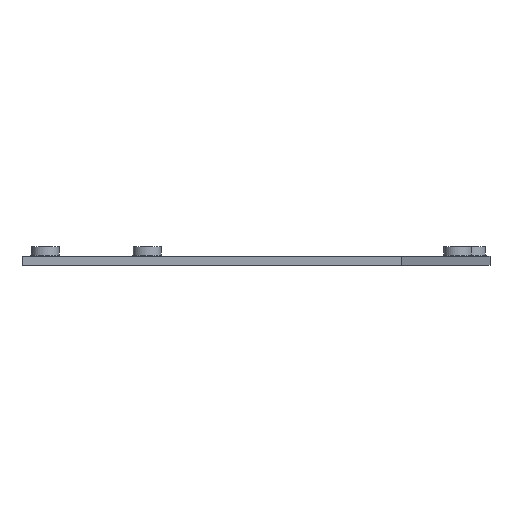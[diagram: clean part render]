
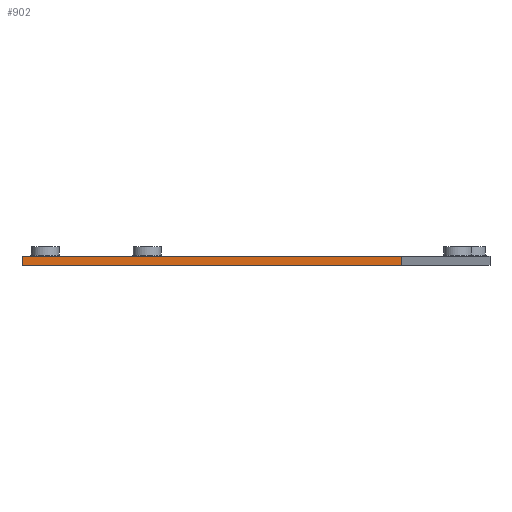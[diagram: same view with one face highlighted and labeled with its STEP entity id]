
A CAD part, left-side view. The second image highlights one B-rep face of the part: STEP entity #902.
In plain terms, the highlighted planar face has unit normal (-1, 0, 0).
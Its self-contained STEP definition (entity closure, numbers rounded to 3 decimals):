
#44 = PLANE('',#45);
#45 = AXIS2_PLACEMENT_3D('',#46,#47,#48);
#46 = CARTESIAN_POINT('',(0.,19.,0.));
#47 = DIRECTION('',(0.362,0.932,-0.));
#48 = DIRECTION('',(0.932,-0.362,0.));
#72 = PLANE('',#73);
#73 = AXIS2_PLACEMENT_3D('',#74,#75,#76);
#74 = CARTESIAN_POINT('',(72.252,53.758,2.));
#75 = DIRECTION('',(0.,0.,1.));
#76 = DIRECTION('',(1.,0.,-0.));
#126 = PLANE('',#127);
#127 = AXIS2_PLACEMENT_3D('',#128,#129,#130);
#128 = CARTESIAN_POINT('',(72.252,53.758,0.));
#129 = DIRECTION('',(0.,0.,1.));
#130 = DIRECTION('',(1.,0.,-0.));
#141 = EDGE_CURVE('',#142,#144,#146,.T.);
#142 = VERTEX_POINT('',#143);
#143 = CARTESIAN_POINT('',(0.,19.,2.));
#144 = VERTEX_POINT('',#145);
#145 = CARTESIAN_POINT('',(0.,19.,0.));
#146 = SURFACE_CURVE('',#147,(#151,#158),.PCURVE_S1.);
#147 = LINE('',#148,#149);
#148 = CARTESIAN_POINT('',(0.,19.,2.));
#149 = VECTOR('',#150,1.);
#150 = DIRECTION('',(0.,0.,-1.));
#151 = PCURVE('',#44,#152);
#152 = DEFINITIONAL_REPRESENTATION('',(#153),#157);
#153 = LINE('',#154,#155);
#154 = CARTESIAN_POINT('',(0.,-2.));
#155 = VECTOR('',#156,1.);
#156 = DIRECTION('',(0.,1.));
#157 = ( GEOMETRIC_REPRESENTATION_CONTEXT(2) 
PARAMETRIC_REPRESENTATION_CONTEXT() REPRESENTATION_CONTEXT('2D SPACE',''
  ) );
#158 = PCURVE('',#159,#164);
#159 = PLANE('',#160);
#160 = AXIS2_PLACEMENT_3D('',#161,#162,#163);
#161 = CARTESIAN_POINT('',(0.,101.,0.));
#162 = DIRECTION('',(1.,0.,-0.));
#163 = DIRECTION('',(0.,-1.,0.));
#164 = DEFINITIONAL_REPRESENTATION('',(#165),#169);
#165 = LINE('',#166,#167);
#166 = CARTESIAN_POINT('',(82.,-2.));
#167 = VECTOR('',#168,1.);
#168 = DIRECTION('',(0.,1.));
#169 = ( GEOMETRIC_REPRESENTATION_CONTEXT(2) 
PARAMETRIC_REPRESENTATION_CONTEXT() REPRESENTATION_CONTEXT('2D SPACE',''
  ) );
#377 = VERTEX_POINT('',#378);
#378 = CARTESIAN_POINT('',(0.,101.,2.));
#392 = PLANE('',#393);
#393 = AXIS2_PLACEMENT_3D('',#394,#395,#396);
#394 = CARTESIAN_POINT('',(142.,101.,0.));
#395 = DIRECTION('',(0.,-1.,0.));
#396 = DIRECTION('',(-1.,0.,0.));
#404 = EDGE_CURVE('',#377,#142,#405,.T.);
#405 = SURFACE_CURVE('',#406,(#410,#417),.PCURVE_S1.);
#406 = LINE('',#407,#408);
#407 = CARTESIAN_POINT('',(0.,101.,2.));
#408 = VECTOR('',#409,1.);
#409 = DIRECTION('',(0.,-1.,0.));
#410 = PCURVE('',#72,#411);
#411 = DEFINITIONAL_REPRESENTATION('',(#412),#416);
#412 = LINE('',#413,#414);
#413 = CARTESIAN_POINT('',(-72.252,47.242));
#414 = VECTOR('',#415,1.);
#415 = DIRECTION('',(0.,-1.));
#416 = ( GEOMETRIC_REPRESENTATION_CONTEXT(2) 
PARAMETRIC_REPRESENTATION_CONTEXT() REPRESENTATION_CONTEXT('2D SPACE',''
  ) );
#417 = PCURVE('',#159,#418);
#418 = DEFINITIONAL_REPRESENTATION('',(#419),#423);
#419 = LINE('',#420,#421);
#420 = CARTESIAN_POINT('',(0.,-2.));
#421 = VECTOR('',#422,1.);
#422 = DIRECTION('',(1.,0.));
#423 = ( GEOMETRIC_REPRESENTATION_CONTEXT(2) 
PARAMETRIC_REPRESENTATION_CONTEXT() REPRESENTATION_CONTEXT('2D SPACE',''
  ) );
#720 = VERTEX_POINT('',#721);
#721 = CARTESIAN_POINT('',(0.,101.,0.));
#742 = EDGE_CURVE('',#720,#144,#743,.T.);
#743 = SURFACE_CURVE('',#744,(#748,#755),.PCURVE_S1.);
#744 = LINE('',#745,#746);
#745 = CARTESIAN_POINT('',(0.,101.,0.));
#746 = VECTOR('',#747,1.);
#747 = DIRECTION('',(0.,-1.,0.));
#748 = PCURVE('',#126,#749);
#749 = DEFINITIONAL_REPRESENTATION('',(#750),#754);
#750 = LINE('',#751,#752);
#751 = CARTESIAN_POINT('',(-72.252,47.242));
#752 = VECTOR('',#753,1.);
#753 = DIRECTION('',(0.,-1.));
#754 = ( GEOMETRIC_REPRESENTATION_CONTEXT(2) 
PARAMETRIC_REPRESENTATION_CONTEXT() REPRESENTATION_CONTEXT('2D SPACE',''
  ) );
#755 = PCURVE('',#159,#756);
#756 = DEFINITIONAL_REPRESENTATION('',(#757),#761);
#757 = LINE('',#758,#759);
#758 = CARTESIAN_POINT('',(0.,0.));
#759 = VECTOR('',#760,1.);
#760 = DIRECTION('',(1.,0.));
#761 = ( GEOMETRIC_REPRESENTATION_CONTEXT(2) 
PARAMETRIC_REPRESENTATION_CONTEXT() REPRESENTATION_CONTEXT('2D SPACE',''
  ) );
#902 = ADVANCED_FACE('',(#903),#159,.F.);
#903 = FACE_BOUND('',#904,.F.);
#904 = EDGE_LOOP('',(#905,#926,#927,#928));
#905 = ORIENTED_EDGE('',*,*,#906,.F.);
#906 = EDGE_CURVE('',#377,#720,#907,.T.);
#907 = SURFACE_CURVE('',#908,(#912,#919),.PCURVE_S1.);
#908 = LINE('',#909,#910);
#909 = CARTESIAN_POINT('',(0.,101.,2.));
#910 = VECTOR('',#911,1.);
#911 = DIRECTION('',(0.,0.,-1.));
#912 = PCURVE('',#159,#913);
#913 = DEFINITIONAL_REPRESENTATION('',(#914),#918);
#914 = LINE('',#915,#916);
#915 = CARTESIAN_POINT('',(0.,-2.));
#916 = VECTOR('',#917,1.);
#917 = DIRECTION('',(0.,1.));
#918 = ( GEOMETRIC_REPRESENTATION_CONTEXT(2) 
PARAMETRIC_REPRESENTATION_CONTEXT() REPRESENTATION_CONTEXT('2D SPACE',''
  ) );
#919 = PCURVE('',#392,#920);
#920 = DEFINITIONAL_REPRESENTATION('',(#921),#925);
#921 = LINE('',#922,#923);
#922 = CARTESIAN_POINT('',(142.,-2.));
#923 = VECTOR('',#924,1.);
#924 = DIRECTION('',(0.,1.));
#925 = ( GEOMETRIC_REPRESENTATION_CONTEXT(2) 
PARAMETRIC_REPRESENTATION_CONTEXT() REPRESENTATION_CONTEXT('2D SPACE',''
  ) );
#926 = ORIENTED_EDGE('',*,*,#404,.T.);
#927 = ORIENTED_EDGE('',*,*,#141,.T.);
#928 = ORIENTED_EDGE('',*,*,#742,.F.);
